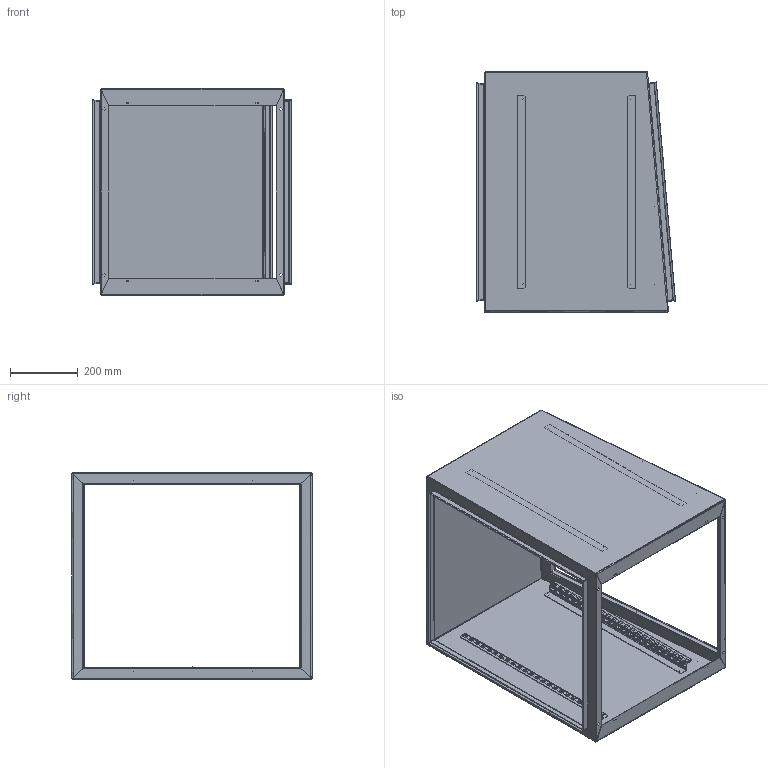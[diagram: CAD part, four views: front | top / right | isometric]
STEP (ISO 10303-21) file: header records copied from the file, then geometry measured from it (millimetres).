
FILE_DESCRIPTION((''),'2;1');
FILE_NAME('D:\scratch\ideas\36479_pst766.stp','2009-03-12T09:39:26', ('User'),('SDRC'),'I-DEAS Master Series 9','UNIX','Yes');
FILE_SCHEMA(('AUTOMOTIVE_DESIGN { 1 0 10303 214 0 1 1 1 }'));
Length unit declared in the file: inch
Products named in the file (8): 36479_pst766; 87557967; 87557972; 87557947; 87555448; 87557950; 87558408; 87411276
Assembly tree (10 placements, depth 2):
  36479_pst766
    87557967
    87557972
    87557947
    87555448
    87557950
    87558408  x4
    87411276
Bounding box: 586.16 x 707.43 x 608 mm (x, y, z)
Volume: 2726292.1 mm3; surface area: 3030728.6 mm2
Topology: 10 solids, 10 shells, 1401 faces, 3861 edges, 2482 vertices
Faces by surface type: bspline 1401
Entity records: 20338 total; most frequent: CARTESIAN_POINT 9729, ORIENTED_EDGE 3246, EDGE_CURVE 1623, VERTEX_POINT 1006, QUASI_UNIFORM_CURVE 957, EDGE_LOOP 867, FACE_OUTER_BOUND 633, ADVANCED_FACE 633
